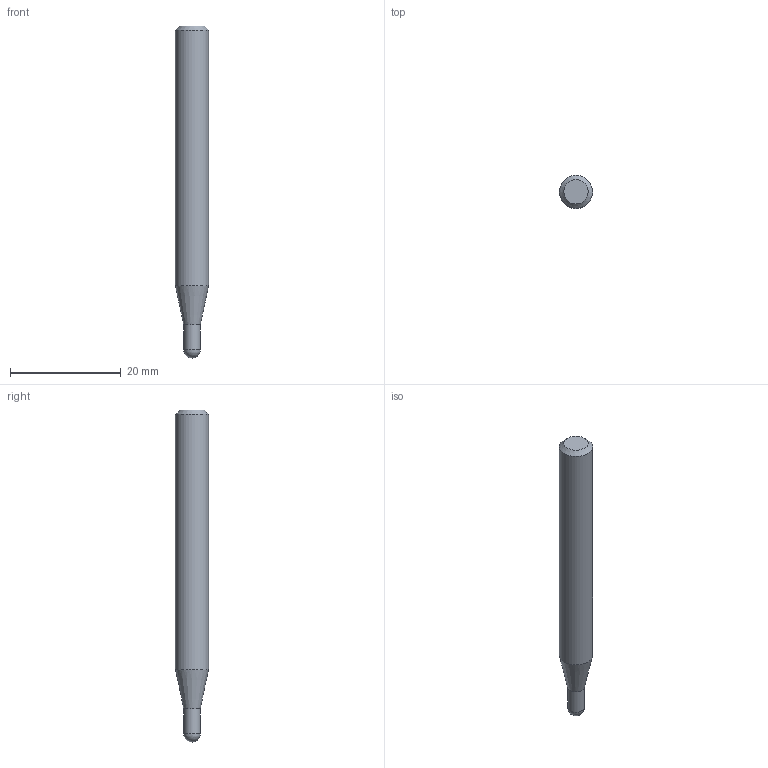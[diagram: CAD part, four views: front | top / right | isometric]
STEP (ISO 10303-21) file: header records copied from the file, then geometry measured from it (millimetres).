
FILE_DESCRIPTION((''),'2;1');
FILE_NAME('C:\Users\nsx150\AppData\Local\Temp\Mastercam 2021\EUJSUNXURU\TEMP.step','2021-04-22T10:22:53',(''),(''),'STEP Write','Mastercam 2021 ... CNC Software, Inc.','');
FILE_SCHEMA(('AUTOMOTIVE_DESIGN'));
Length unit declared in the file: millimetre
Products named in the file (1): None
Bounding box: 6 x 6 x 60 mm (x, y, z)
Volume: 1477.1 mm3; surface area: 1076.1 mm2
Topology: 2 solids, 2 shells, 8 faces, 12 edges, 7 vertices
Faces by surface type: plane 3, cylinder 2, cone 2, sphere 1
Full cylindrical faces by diameter (mm): 3 x1, 6 x1
Entity records: 190 total; most frequent: DIRECTION 32, CARTESIAN_POINT 22, AXIS2_PLACEMENT_3D 16, ORIENTED_EDGE 12, EDGE_LOOP 12, STYLED_ITEM 11, ADVANCED_FACE 8, VERTEX_POINT 6
